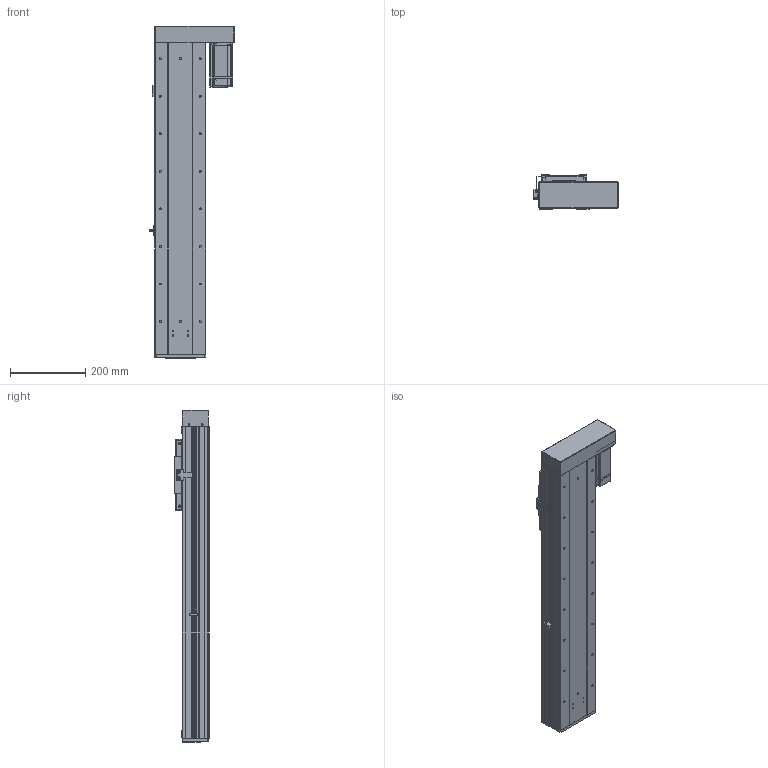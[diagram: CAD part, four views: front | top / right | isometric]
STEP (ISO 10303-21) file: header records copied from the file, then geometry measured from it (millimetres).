
FILE_DESCRIPTION (( 'STEP AP203' ), '1' );
FILE_NAME ('RY140F-L2020-300-RK.SLDASM_550.step', '2021-03-02T08:50:19', ( '盈信电脑' ), ( '东莞市道滘镇水果街19号' ), 'SwSTEP 2.0', 'SolidWorks 2012', '' );
FILE_SCHEMA (( 'CONFIG_CONTROL_DESIGN' ));
Length unit declared in the file: millimetre
Products named in the file (19): RY140F-672覜茼んえ; RY140F-L2020-300-RK.SLDASM_550; 侐源滅袉蝶; RY140F-酘衵殏萇儂欶(400W); RY140F-转折折电机座（7001）; RY140F-左右折电机安装板(400W M5); RY140F-詩湍揤え; 覜茼ん672; 侂狟400W侜督萇儂; RY140F-后盖板(铝件）; 15; RY100F-詩湍揤踡謫; RY140F-直连型材铝滑块(16丝杆); RY140F-詩湍幗謫粣; RY140F-滅鳥奻裔; RY140F-300-RK倰第奻裔啣_550; RY140F-300-RK蛌殏詩湍_550; RY140F-直连型材铝滑块连接座; RY140F-300-RK倰第菁釱_550
Assembly tree (23 placements, depth 3):
  RY140F-L2020-300-RK.SLDASM_550
    RY140F-300-RK倰第菁釱_550
    RY140F-300-RK倰第奻裔啣_550  x2
    RY140F-300-RK蛌殏詩湍_550
    RY140F-直连型材铝滑块连接座
    RY140F-滅鳥奻裔
    RY140F-詩湍幗謫粣
    RY100F-詩湍揤踡謫
    RY140F-直连型材铝滑块(16丝杆)
    RY140F-后盖板(铝件）
    侂狟400W侜督萇儂
      15
    覜茼ん672
    RY140F-672覜茼んえ
    RY140F-詩湍揤え  x2
    侐源滅袉蝶  x4
    RY140F-转折折电机座（7001）
    RY140F-左右折电机安装板(400W M5)
    RY140F-酘衵殏萇儂欶(400W)
Bounding box: 224.7 x 91 x 884 mm (x, y, z)
Volume: 3648359.8 mm3; surface area: 1296584.2 mm2
Topology: 22 solids, 22 shells, 2021 faces, 5513 edges, 3500 vertices
Faces by surface type: cylinder 980, plane 789, cone 222, bspline 26, torus 4
Entity records: 63827 total; most frequent: CARTESIAN_POINT 13517, DIRECTION 10214, ORIENTED_EDGE 9922, EDGE_CURVE 4961, AXIS2_PLACEMENT_3D 3661, VERTEX_POINT 3240, LINE 2892, VECTOR 2892
